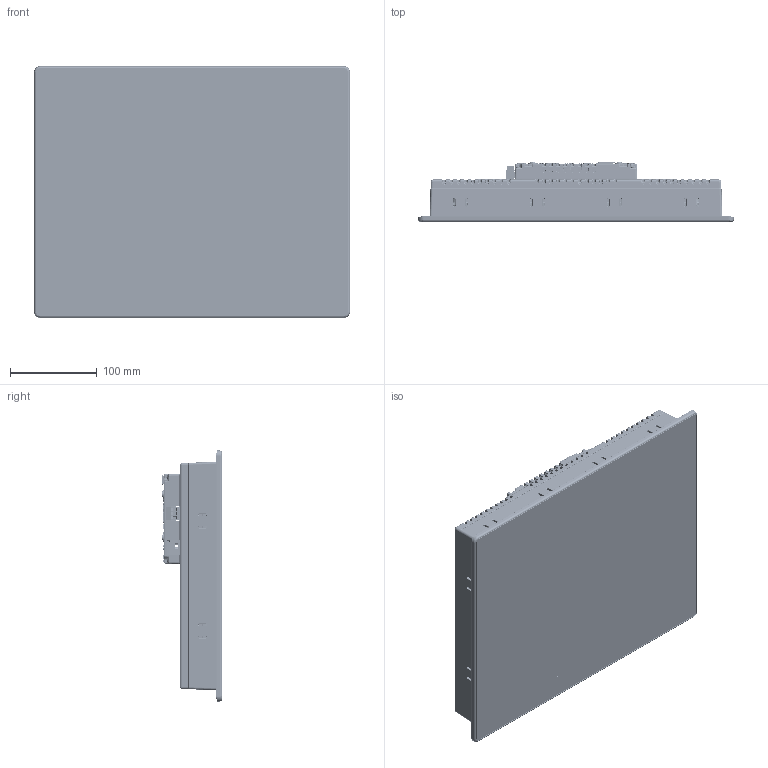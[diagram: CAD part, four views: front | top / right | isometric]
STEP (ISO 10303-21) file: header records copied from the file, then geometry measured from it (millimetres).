
FILE_DESCRIPTION(/* description */ ('Unknown'),/* implementation_level */ '2;1');
FILE_NAME(/* name */ 'CR300015',/* time_stamp */ '2019-12-27T11:27:40-05:00',/* author */ ('Unknown'),/* organization */ ('Unknown'),/* preprocessor_version */ 'ST-DEVELOPER v16.7',/* originating_system */ 'DEX',/* authorisation */ $);
FILE_SCHEMA (('AUTOMOTIVE_DESIGN {1 0 10303 214 3 1 1}'));
Products named in the file (21): CR300015; 10402; 10403; NL10276AC30-48D_0000_2_160512; HWM05067_M3 SIDE BRACKET; 10405; 10404; CB_10336_R01 - 7-20-17 smaller file; 10408; 10170-copy; 10542; 10407; HWSMQF08-copy; HWSTPP08; EM10337_10342_RevA_CANLVDS-back_6-29-17_FTELchange; 10379_copy; 10378_copy; CNTP0300; 10301; 10371_copy; 10409
Assembly tree (56 placements, depth 2):
  CR300015
    10402
    10403
    NL10276AC30-48D_0000_2_160512
    HWM05067_M3 SIDE BRACKET  x4
    10405
    10404
    CB_10336_R01 - 7-20-17 smaller file
    10408  x2
    10170-copy  x19
    10542  x4
    10407  x2
    HWSMQF08-copy  x4
    HWSTPP08  x4
    EM10337_10342_RevA_CANLVDS-back_6-29-17_FTELchange
    10379_copy  x4
    10378_copy  x2
    CNTP0300
    10301
    10371_copy
    10409
Bounding box: 364.63 x 69.22 x 290.13 mm (x, y, z)
Volume: 752886.9 mm3; surface area: 963431.3 mm2
Topology: 57 solids, 58 shells, 19163 faces, 47550 edges, 27450 vertices
Faces by surface type: cylinder 6844, plane 5599, bspline 3507, sphere 1312, torus 1192, cone 709
Full cylindrical faces by diameter (mm): 0.635 x2, 1.905 x1, 2.3 x4, 2.594 x32, 2.921 x3, 3 x24, 3.226 x19, 5.563 x23, 6.858 x1
Entity records: 569991 total; most frequent: CARTESIAN_POINT 162491, DIRECTION 82579, ORIENTED_EDGE 82464, EDGE_CURVE 41232, AXIS2_PLACEMENT_3D 31549, VERTEX_POINT 24261, LINE 19481, VECTOR 19481
